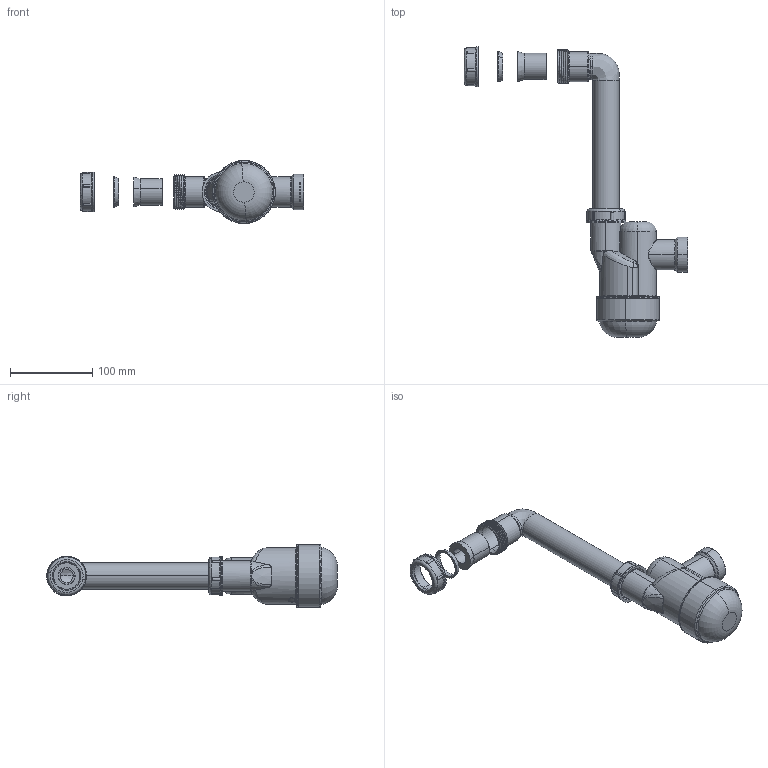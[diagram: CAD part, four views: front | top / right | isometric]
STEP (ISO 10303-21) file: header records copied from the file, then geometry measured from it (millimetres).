
FILE_DESCRIPTION (( 'STEP AP203' ), '1' );
FILE_NAME ('126469.STEP', '2021-11-17T12:39:37', ( '' ), ( '' ), 'SwSTEP 2.0', 'SolidWorks 2021', '' );
FILE_SCHEMA (( 'CONFIG_CONTROL_DESIGN' ));
Length unit declared in the file: millimetre
Products named in the file (13): 619911; 71141; 61995; 61907; 71486; 619772; 614311; 71494; 619961; 61905; 126469; 690093; 61992
Assembly tree (14 placements, depth 3):
  126469
    690093
      619961
      71494
      619772
      61992
      71486
      71141
      614311
    61907  x2
    61905  x2
    61995
    619911
Bounding box: 271.23 x 353.16 x 76.6 mm (x, y, z)
Volume: 254351 mm3; surface area: 203520.3 mm2
Topology: 13 solids, 13 shells, 586 faces, 1336 edges, 785 vertices
Faces by surface type: cylinder 187, torus 171, bspline 85, cone 69, plane 66, sphere 8
Entity records: 43303 total; most frequent: CARTESIAN_POINT 30827, DIRECTION 2360, ORIENTED_EDGE 2338, EDGE_CURVE 1169, AXIS2_PLACEMENT_3D 1065, VERTEX_POINT 687, CIRCLE 612, EDGE_LOOP 556
